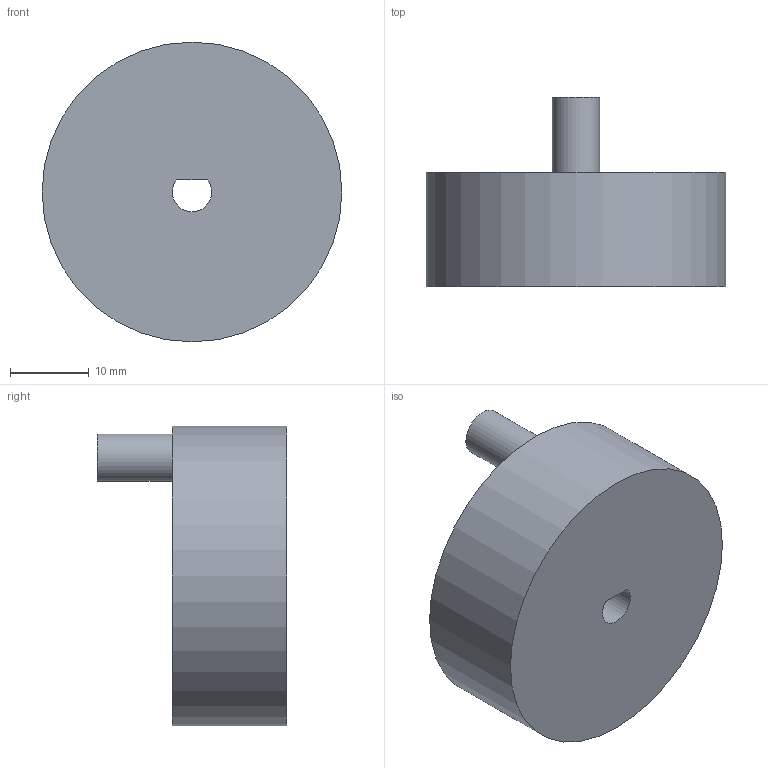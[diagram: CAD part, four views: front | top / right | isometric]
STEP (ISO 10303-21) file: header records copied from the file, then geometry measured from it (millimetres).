
FILE_DESCRIPTION(('STEP AP242'), '1');
FILE_NAME('扻錼罿鳪', '', ('UNSPECIFIED'), ('UNSPECIFIED'), 'C3D Converter', 'C3D Toolkit', '');
FILE_SCHEMA(('AP242_MANAGED_MODEL_BASED_3D_ENGINEERING_MIM_LF { 1 0 10303 442 1 1 4 }'));
Length unit declared in the file: millimetre
Bounding box: 38 x 24 x 38 mm (x, y, z)
Volume: 16466.2 mm3; surface area: 4363.5 mm2
Topology: 1 solids, 1 shells, 7 faces, 12 edges, 8 vertices
Faces by surface type: plane 4, cylinder 3
Full cylindrical faces by diameter (mm): 6 x1, 38 x1
Entity records: 206 total; most frequent: DIRECTION 32, CARTESIAN_POINT 26, ORIENTED_EDGE 20, AXIS2_PLACEMENT_3D 14, EDGE_LOOP 12, EDGE_CURVE 10, FACE_BOUND 8, VERTEX_POINT 8
